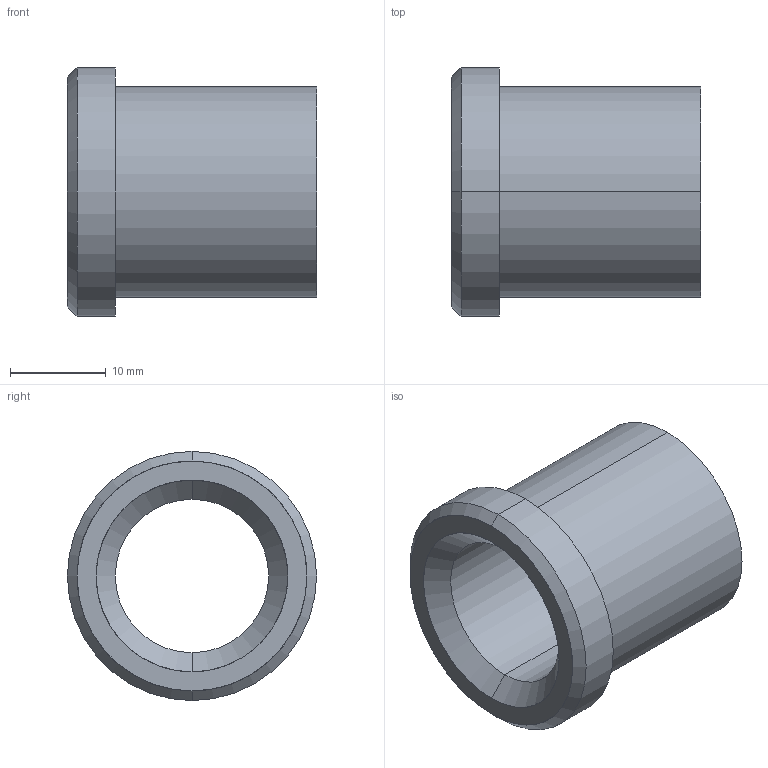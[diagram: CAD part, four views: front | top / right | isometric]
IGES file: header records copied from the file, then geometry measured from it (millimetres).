
Start section: START RECORD GO HERE.
Global section: file name: 353-16X26.igs; native system: DASSAULT SYSTEMES CATIA V5 R20 - www.3ds.com; preprocessor: CATIA Version 5 Release 20 ; author: Utente; organization: NB04-ASUS; date: 20210504.201932; units: millimetre
Bounding box: 26 x 26 x 26 mm (x, y, z)
Surface area: 3702.5 mm2 (no closed solid volume)
Topology: 0 solids, 0 shells, 15 faces, 96 edges, 96 vertices
Faces by surface type: revolution 12, plane 3
